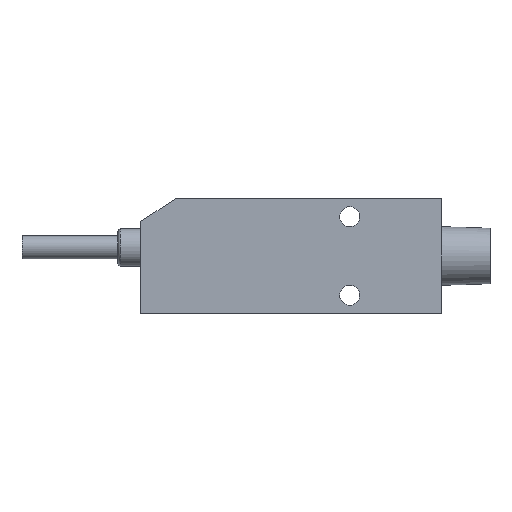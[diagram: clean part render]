
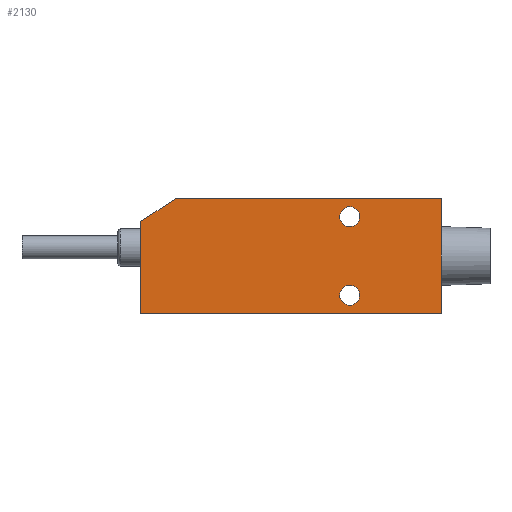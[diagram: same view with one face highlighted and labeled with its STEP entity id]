
A CAD part, left-side view. The second image highlights one B-rep face of the part: STEP entity #2130.
In plain terms, the highlighted free-form (B-spline) face has degree [1, 1] with [2, 2] control points.
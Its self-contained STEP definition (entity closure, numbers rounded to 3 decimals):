
#1948=CARTESIAN_POINT('',(-8.,3.25,-12.));
#1949=CARTESIAN_POINT('',(-8.,3.25,12.));
#1950=CARTESIAN_POINT('',(-8.,66.25,-12.));
#1951=CARTESIAN_POINT('',(-8.,66.25,12.));
#1952=B_SPLINE_SURFACE_WITH_KNOTS('',1,1,((#1948,#1950),(#1949,#1951)),.UNSPECIFIED.,.F.,.F.,.U.,(2,2),(2,2),(0.,24.),(0.,63.),.UNSPECIFIED.);
#1953=CARTESIAN_POINT('',(-8.,8.5,-10.));
#1954=VERTEX_POINT('',#1953);
#1955=CARTESIAN_POINT('',(-8.,8.5,10.));
#1956=VERTEX_POINT('',#1955);
#1957=CARTESIAN_POINT('',(-8.,8.5,-10.));
#1958=CARTESIAN_POINT('',(-8.,8.5,10.));
#1959=QUASI_UNIFORM_CURVE('',1,(#1957,#1958),.UNSPECIFIED.,.F.,.U.);
#1960=EDGE_CURVE('',#1954,#1956,#1959,.T.);
#1961=ORIENTED_EDGE('',*,*,#1960,.T.);
#1962=CARTESIAN_POINT('',(-8.,55.,10.));
#1963=VERTEX_POINT('',#1962);
#1964=CARTESIAN_POINT('',(-8.,8.5,10.));
#1965=CARTESIAN_POINT('',(-8.,55.,10.));
#1966=QUASI_UNIFORM_CURVE('',1,(#1964,#1965),.UNSPECIFIED.,.F.,.U.);
#1967=EDGE_CURVE('',#1956,#1963,#1966,.T.);
#1968=ORIENTED_EDGE('',*,*,#1967,.T.);
#1969=CARTESIAN_POINT('',(-8.,61.,6.));
#1970=VERTEX_POINT('',#1969);
#1971=CARTESIAN_POINT('',(-8.,55.,10.));
#1972=CARTESIAN_POINT('',(-8.,61.,6.));
#1973=QUASI_UNIFORM_CURVE('',1,(#1971,#1972),.UNSPECIFIED.,.F.,.U.);
#1974=EDGE_CURVE('',#1963,#1970,#1973,.T.);
#1975=ORIENTED_EDGE('',*,*,#1974,.T.);
#1976=CARTESIAN_POINT('',(-8.,61.,-10.));
#1977=VERTEX_POINT('',#1976);
#1978=CARTESIAN_POINT('',(-8.,61.,6.));
#1979=CARTESIAN_POINT('',(-8.,61.,-10.));
#1980=QUASI_UNIFORM_CURVE('',1,(#1978,#1979),.UNSPECIFIED.,.F.,.U.);
#1981=EDGE_CURVE('',#1970,#1977,#1980,.T.);
#1982=ORIENTED_EDGE('',*,*,#1981,.T.);
#1983=CARTESIAN_POINT('',(-8.,61.,-10.));
#1984=CARTESIAN_POINT('',(-8.,8.5,-10.));
#1985=QUASI_UNIFORM_CURVE('',1,(#1983,#1984),.UNSPECIFIED.,.F.,.U.);
#1986=EDGE_CURVE('',#1977,#1954,#1985,.T.);
#1987=ORIENTED_EDGE('',*,*,#1986,.T.);
#1988=EDGE_LOOP('',(#1961,#1968,#1975,#1982,#1987));
#1989=FACE_OUTER_BOUND('',#1988,.T.);
#1990=CARTESIAN_POINT('',(-8.,24.5,-5.1));
#1991=VERTEX_POINT('',#1990);
#1992=CARTESIAN_POINT('',(-8.,22.75,-6.85));
#1993=VERTEX_POINT('',#1992);
#1994=CARTESIAN_POINT('',(-8.,24.5,-5.1));
#1995=CARTESIAN_POINT('',(-8.,23.775,-5.1));
#1996=CARTESIAN_POINT('',(-8.,23.263,-5.613));
#1997=CARTESIAN_POINT('',(-8.,22.75,-6.125));
#1998=CARTESIAN_POINT('',(-8.,22.75,-6.85));
#2006=(BOUNDED_CURVE()B_SPLINE_CURVE(2,(#1994,#1995,#1996,#1997,#1998),.UNSPECIFIED.,.F.,.U.)B_SPLINE_CURVE_WITH_KNOTS((3,2,3),(0.,0.5,1.),.UNSPECIFIED.)CURVE()GEOMETRIC_REPRESENTATION_ITEM()RATIONAL_B_SPLINE_CURVE((1.,0.924,1.,0.924,1.))REPRESENTATION_ITEM(''));
#2007=EDGE_CURVE('',#1991,#1993,#2006,.T.);
#2008=ORIENTED_EDGE('',*,*,#2007,.T.);
#2009=CARTESIAN_POINT('',(-8.,24.5,-8.6));
#2010=VERTEX_POINT('',#2009);
#2011=CARTESIAN_POINT('',(-8.,22.75,-6.85));
#2012=CARTESIAN_POINT('',(-8.,22.75,-7.575));
#2013=CARTESIAN_POINT('',(-8.,23.263,-8.087));
#2014=CARTESIAN_POINT('',(-8.,23.775,-8.6));
#2015=CARTESIAN_POINT('',(-8.,24.5,-8.6));
#2023=(BOUNDED_CURVE()B_SPLINE_CURVE(2,(#2011,#2012,#2013,#2014,#2015),.UNSPECIFIED.,.F.,.U.)B_SPLINE_CURVE_WITH_KNOTS((3,2,3),(0.,0.5,1.),.UNSPECIFIED.)CURVE()GEOMETRIC_REPRESENTATION_ITEM()RATIONAL_B_SPLINE_CURVE((1.,0.924,1.,0.924,1.))REPRESENTATION_ITEM(''));
#2024=EDGE_CURVE('',#1993,#2010,#2023,.T.);
#2025=ORIENTED_EDGE('',*,*,#2024,.T.);
#2026=CARTESIAN_POINT('',(-8.,26.25,-6.85));
#2027=VERTEX_POINT('',#2026);
#2028=CARTESIAN_POINT('',(-8.,24.5,-8.6));
#2029=CARTESIAN_POINT('',(-8.,25.225,-8.6));
#2030=CARTESIAN_POINT('',(-8.,25.737,-8.087));
#2031=CARTESIAN_POINT('',(-8.,26.25,-7.575));
#2032=CARTESIAN_POINT('',(-8.,26.25,-6.85));
#2040=(BOUNDED_CURVE()B_SPLINE_CURVE(2,(#2028,#2029,#2030,#2031,#2032),.UNSPECIFIED.,.F.,.U.)B_SPLINE_CURVE_WITH_KNOTS((3,2,3),(0.,0.5,1.),.UNSPECIFIED.)CURVE()GEOMETRIC_REPRESENTATION_ITEM()RATIONAL_B_SPLINE_CURVE((1.,0.924,1.,0.924,1.))REPRESENTATION_ITEM(''));
#2041=EDGE_CURVE('',#2010,#2027,#2040,.T.);
#2042=ORIENTED_EDGE('',*,*,#2041,.T.);
#2043=CARTESIAN_POINT('',(-8.,26.25,-6.85));
#2044=CARTESIAN_POINT('',(-8.,26.25,-6.125));
#2045=CARTESIAN_POINT('',(-8.,25.737,-5.613));
#2046=CARTESIAN_POINT('',(-8.,25.225,-5.1));
#2047=CARTESIAN_POINT('',(-8.,24.5,-5.1));
#2055=(BOUNDED_CURVE()B_SPLINE_CURVE(2,(#2043,#2044,#2045,#2046,#2047),.UNSPECIFIED.,.F.,.U.)B_SPLINE_CURVE_WITH_KNOTS((3,2,3),(0.,0.5,1.),.UNSPECIFIED.)CURVE()GEOMETRIC_REPRESENTATION_ITEM()RATIONAL_B_SPLINE_CURVE((1.,0.924,1.,0.924,1.))REPRESENTATION_ITEM(''));
#2056=EDGE_CURVE('',#2027,#1991,#2055,.T.);
#2057=ORIENTED_EDGE('',*,*,#2056,.T.);
#2058=EDGE_LOOP('',(#2008,#2025,#2042,#2057));
#2059=FACE_BOUND('',#2058,.T.);
#2060=CARTESIAN_POINT('',(-8.,24.5,8.6));
#2061=VERTEX_POINT('',#2060);
#2062=CARTESIAN_POINT('',(-8.,22.75,6.85));
#2063=VERTEX_POINT('',#2062);
#2064=CARTESIAN_POINT('',(-8.,24.5,8.6));
#2065=CARTESIAN_POINT('',(-8.,23.775,8.6));
#2066=CARTESIAN_POINT('',(-8.,23.263,8.087));
#2067=CARTESIAN_POINT('',(-8.,22.75,7.575));
#2068=CARTESIAN_POINT('',(-8.,22.75,6.85));
#2076=(BOUNDED_CURVE()B_SPLINE_CURVE(2,(#2064,#2065,#2066,#2067,#2068),.UNSPECIFIED.,.F.,.U.)B_SPLINE_CURVE_WITH_KNOTS((3,2,3),(0.,0.5,1.),.UNSPECIFIED.)CURVE()GEOMETRIC_REPRESENTATION_ITEM()RATIONAL_B_SPLINE_CURVE((1.,0.924,1.,0.924,1.))REPRESENTATION_ITEM(''));
#2077=EDGE_CURVE('',#2061,#2063,#2076,.T.);
#2078=ORIENTED_EDGE('',*,*,#2077,.T.);
#2079=CARTESIAN_POINT('',(-8.,24.5,5.1));
#2080=VERTEX_POINT('',#2079);
#2081=CARTESIAN_POINT('',(-8.,22.75,6.85));
#2082=CARTESIAN_POINT('',(-8.,22.75,6.125));
#2083=CARTESIAN_POINT('',(-8.,23.263,5.613));
#2084=CARTESIAN_POINT('',(-8.,23.775,5.1));
#2085=CARTESIAN_POINT('',(-8.,24.5,5.1));
#2093=(BOUNDED_CURVE()B_SPLINE_CURVE(2,(#2081,#2082,#2083,#2084,#2085),.UNSPECIFIED.,.F.,.U.)B_SPLINE_CURVE_WITH_KNOTS((3,2,3),(0.,0.5,1.),.UNSPECIFIED.)CURVE()GEOMETRIC_REPRESENTATION_ITEM()RATIONAL_B_SPLINE_CURVE((1.,0.924,1.,0.924,1.))REPRESENTATION_ITEM(''));
#2094=EDGE_CURVE('',#2063,#2080,#2093,.T.);
#2095=ORIENTED_EDGE('',*,*,#2094,.T.);
#2096=CARTESIAN_POINT('',(-8.,26.25,6.85));
#2097=VERTEX_POINT('',#2096);
#2098=CARTESIAN_POINT('',(-8.,24.5,5.1));
#2099=CARTESIAN_POINT('',(-8.,25.225,5.1));
#2100=CARTESIAN_POINT('',(-8.,25.737,5.613));
#2101=CARTESIAN_POINT('',(-8.,26.25,6.125));
#2102=CARTESIAN_POINT('',(-8.,26.25,6.85));
#2110=(BOUNDED_CURVE()B_SPLINE_CURVE(2,(#2098,#2099,#2100,#2101,#2102),.UNSPECIFIED.,.F.,.U.)B_SPLINE_CURVE_WITH_KNOTS((3,2,3),(0.,0.5,1.),.UNSPECIFIED.)CURVE()GEOMETRIC_REPRESENTATION_ITEM()RATIONAL_B_SPLINE_CURVE((1.,0.924,1.,0.924,1.))REPRESENTATION_ITEM(''));
#2111=EDGE_CURVE('',#2080,#2097,#2110,.T.);
#2112=ORIENTED_EDGE('',*,*,#2111,.T.);
#2113=CARTESIAN_POINT('',(-8.,26.25,6.85));
#2114=CARTESIAN_POINT('',(-8.,26.25,7.575));
#2115=CARTESIAN_POINT('',(-8.,25.737,8.087));
#2116=CARTESIAN_POINT('',(-8.,25.225,8.6));
#2117=CARTESIAN_POINT('',(-8.,24.5,8.6));
#2125=(BOUNDED_CURVE()B_SPLINE_CURVE(2,(#2113,#2114,#2115,#2116,#2117),.UNSPECIFIED.,.F.,.U.)B_SPLINE_CURVE_WITH_KNOTS((3,2,3),(0.,0.5,1.),.UNSPECIFIED.)CURVE()GEOMETRIC_REPRESENTATION_ITEM()RATIONAL_B_SPLINE_CURVE((1.,0.924,1.,0.924,1.))REPRESENTATION_ITEM(''));
#2126=EDGE_CURVE('',#2097,#2061,#2125,.T.);
#2127=ORIENTED_EDGE('',*,*,#2126,.T.);
#2128=EDGE_LOOP('',(#2078,#2095,#2112,#2127));
#2129=FACE_BOUND('',#2128,.T.);
#2130=ADVANCED_FACE('',(#1989,#2059,#2129),#1952,.T.);
